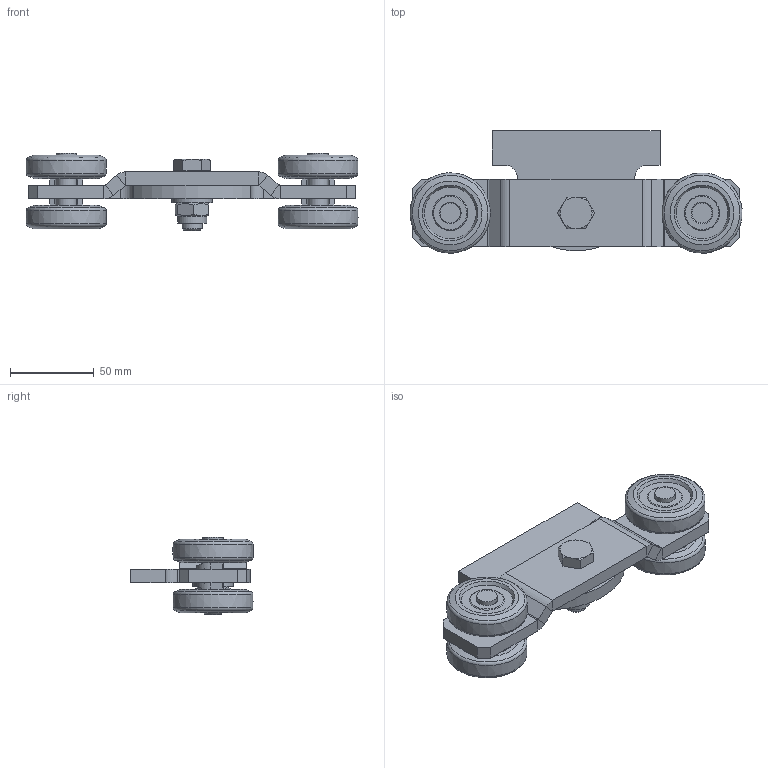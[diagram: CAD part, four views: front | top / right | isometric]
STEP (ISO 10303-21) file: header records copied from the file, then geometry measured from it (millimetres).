
FILE_DESCRIPTION(/* description */ ('Brennteil'),/* implementation_level */ '2;1');
FILE_NAME(/* name */ 'Q:\sge-ma\Produktmanagement-STB\STB\Workspace\TraceParts\Doppelrolle mit Anschweißpendel\010336866.stp',/* time_stamp */ '2018-02-27T13:46:24+01:00',/* author */ ('avschreier'),/* organization */ (''),/* preprocessor_version */ 'ST-DEVELOPER v16.1',/* originating_system */ 'Autodesk Inventor 2016',/* authorisation */ '');
FILE_SCHEMA (('CONFIG_CONTROL_DESIGN'));
Length unit declared in the file: millimetre
Products named in the file (9): 000302102; 337000119; 336290030; 000303237; 000304012; DIN_EN_ISO_7090-13_en; DIN_EN_ISO_4017-M12x35_en; DIN_EN_ISO_7040-M12_en; 010336866
Assembly tree (15 placements, depth 2):
  010336866
    000302102
    337000119
    336290030  x4
    000303237  x4
    000304012  x2
    DIN_EN_ISO_7090-13_en
    DIN_EN_ISO_4017-M12x35_en
    DIN_EN_ISO_7040-M12_en
Bounding box: 197.78 x 72.96 x 46 mm (x, y, z)
Volume: 202107.6 mm3; surface area: 66690.7 mm2
Topology: 15 solids, 15 shells, 339 faces, 783 edges, 492 vertices
Faces by surface type: plane 199, cylinder 48, cone 48, bspline 36, torus 8
Full cylindrical faces by diameter (mm): 10.106 x1, 11.053 x1, 12 x7, 12.1 x1, 12.3 x1, 13 x1, 14 x2, 17.2 x1, 17.4 x1, 24 x1
Entity records: 5686 total; most frequent: CARTESIAN_POINT 1926, DIRECTION 766, ORIENTED_EDGE 680, EDGE_CURVE 340, AXIS2_PLACEMENT_3D 287, VERTEX_POINT 227, EDGE_LOOP 215, LINE 192
